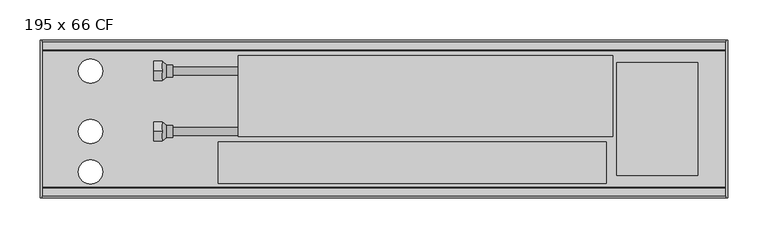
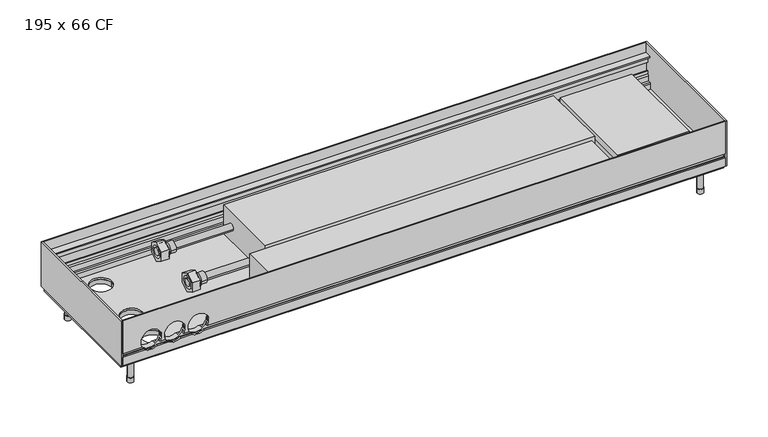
"""IFC4 building model written with IfcOpenShell, lengths in millimetres: proxy geometry, Mohlenhof_Внутрипольный конвектор_QSKM CF : 195 x 66 CF."""

from ifc_helpers import new_model, si_unit, point, frame, frame_2d, origin, place, context, project, spatial, polyline, circle_curve, ellipse_curve, trimmed, segment, composite_curve, outline, extrude, source, transform, mapped, element, save
from ifc_brep_helpers import plane_surface, cylinder_surface, revolved_surface, advanced_brep


def proxy_195_x_66_cf_20c1678a(model_context):
    return source(origin(), model_context, "Body", "SolidModel", [
        advanced_brep(
        [(-274.0, -213.0, -41.0), (-274.0, -201.0, -41.0), (-274.0, -225.0, -41.0), (-261.5, -220.5, -41.0), (-261.5, -205.5, -41.0), (-261.5, -213.0, -41.0), (-269.0, -220.5, -41.0), (-269.0, -205.5, -41.0)],
        [
            (0, 1),
            (1, 2, circle_curve(frame((-274.0, -213.0, -41.0), z_axis=(-1.0, 0.0, 0.0), x_axis=(0.0, 1.0, 0.0)), 12.0)),
            (2, 0),
            (2, 1, circle_curve(frame((-274.0, -213.0, -41.0), z_axis=(-1.0, 0.0, 0.0), x_axis=(0.0, 1.0, 0.0)), 12.0)),
            (3, 4, circle_curve(frame((-261.5, -213.0, -41.0), z_axis=(1.0, 0.0, 0.0), x_axis=(0.0, 1.0, 0.0)), 7.5)),
            (4, 5),
            (5, 3),
            (4, 3, circle_curve(frame((-261.5, -213.0, -41.0), z_axis=(1.0, 0.0, 0.0), x_axis=(0.0, 1.0, 0.0)), 7.5)),
            (6, 7, circle_curve(frame((-269.0, -213.0, -41.0), z_axis=(1.0, 0.0, 0.0), x_axis=(0.0, 1.0, 0.0)), 7.5)),
            (7, 4),
            (3, 6),
            (7, 6, circle_curve(frame((-269.0, -213.0, -41.0), z_axis=(1.0, 0.0, 0.0), x_axis=(0.0, 1.0, 0.0)), 7.5)),
            (1, 7),
            (6, 2),
        ],
        [
            plane_surface(frame((-274.0, -213.0, -41.0), z_axis=(-1.0, 0.0, 0.0), x_axis=(0.0, 1.0, 0.0))),
            plane_surface(frame((-261.5, -213.0, -41.0), z_axis=(1.0, 0.0, 0.0), x_axis=(0.0, 1.0, 0.0))),
            cylinder_surface(frame((-274.0, -213.0, -41.0), z_axis=(-1.0, 0.0, 0.0), x_axis=(0.0, 1.0, 0.0)), 7.5),
            revolved_surface(polyline([(-269.0, -205.5, -41.0), (-274.0, -201.0, -41.0)]), (-274.0, -213.0, -41.0), (-1.0, 0.0, 0.0)),
        ],
        [
            (0, [[1, 2, 3]]),
            (0, [[-3, 4, -1]]),
            (1, [[5, 6, 7]]),
            (1, [[8, -7, -6]]),
            (2, [[9, 10, -5, 11]]),
            (2, [[12, -11, -8, -10]]),
            (3, [[-2, 13, -9, 14]]),
            (3, [[-4, -14, -12, -13]]),
        ],
    ),
        extrude(outline(polyline([(-213.0, -27.1435935), (-201.0, -34.0717968), (-201.0, -47.9282032), (-213.0, -54.8564065), (-225.0, -47.9282032), (-225.0, -34.0717968), (-213.0, -27.1435935)]), holes=[composite_curve([segment(trimmed(circle_curve(frame_2d((-213.0, -41.0)), 8.5), [point((-204.5, -41.0))], [point((-221.5, -41.0))], True, "CARTESIAN"), True, "CONTINUOUS"), segment(trimmed(circle_curve(frame_2d((-213.0, -41.0)), 8.5), [point((-221.5, -41.0))], [point((-204.5, -41.0))], True, "CARTESIAN"), True, "CONTINUOUS")], self_intersect=False)]), frame((-285.0, 0.0, 0.0), z_axis=(1.0, 0.0, 0.0), x_axis=(0.0, 1.0, 0.0)), (0.0, 0.0, 1.0), 11.0),
        advanced_brep(
        [(-274.0, -138.0, -41.0), (-274.0, -126.0, -41.0), (-274.0, -150.0, -41.0), (-261.5, -145.5, -41.0), (-261.5, -130.5, -41.0), (-261.5, -138.0, -41.0), (-269.0, -145.5, -41.0), (-269.0, -130.5, -41.0)],
        [
            (0, 1),
            (1, 2, circle_curve(frame((-274.0, -138.0, -41.0), z_axis=(-1.0, 0.0, 0.0), x_axis=(0.0, 1.0, 0.0)), 12.0)),
            (2, 0),
            (2, 1, circle_curve(frame((-274.0, -138.0, -41.0), z_axis=(-1.0, 0.0, 0.0), x_axis=(0.0, 1.0, 0.0)), 12.0)),
            (3, 4, circle_curve(frame((-261.5, -138.0, -41.0), z_axis=(1.0, 0.0, 0.0), x_axis=(0.0, 1.0, 0.0)), 7.5)),
            (4, 5),
            (5, 3),
            (4, 3, circle_curve(frame((-261.5, -138.0, -41.0), z_axis=(1.0, 0.0, 0.0), x_axis=(0.0, 1.0, 0.0)), 7.5)),
            (6, 7, circle_curve(frame((-269.0, -138.0, -41.0), z_axis=(1.0, 0.0, 0.0), x_axis=(0.0, 1.0, 0.0)), 7.5)),
            (7, 4),
            (3, 6),
            (7, 6, circle_curve(frame((-269.0, -138.0, -41.0), z_axis=(1.0, 0.0, 0.0), x_axis=(0.0, 1.0, 0.0)), 7.5)),
            (1, 7),
            (6, 2),
        ],
        [
            plane_surface(frame((-274.0, -138.0, -41.0), z_axis=(-1.0, 0.0, 0.0), x_axis=(0.0, 1.0, 0.0))),
            plane_surface(frame((-261.5, -138.0, -41.0), z_axis=(1.0, 0.0, 0.0), x_axis=(0.0, 1.0, 0.0))),
            cylinder_surface(frame((-274.0, -138.0, -41.0), z_axis=(-1.0, 0.0, 0.0), x_axis=(0.0, 1.0, 0.0)), 7.5),
            revolved_surface(polyline([(-269.0, -130.5, -41.0), (-274.0, -126.0, -41.0)]), (-274.0, -138.0, -41.0), (-1.0, 0.0, 0.0)),
        ],
        [
            (0, [[1, 2, 3]]),
            (0, [[-3, 4, -1]]),
            (1, [[5, 6, 7]]),
            (1, [[8, -7, -6]]),
            (2, [[9, 10, -5, 11]]),
            (2, [[12, -11, -8, -10]]),
            (3, [[-2, 13, -9, 14]]),
            (3, [[-4, -14, -12, -13]]),
        ],
    ),
        extrude(outline(polyline([(-138.0, -27.1435935), (-126.0, -34.0717968), (-126.0, -47.9282032), (-138.0, -54.8564065), (-150.0, -47.9282032), (-150.0, -34.0717968), (-138.0, -27.1435935)]), holes=[composite_curve([segment(trimmed(circle_curve(frame_2d((-138.0, -41.0)), 8.5), [point((-129.5, -41.0))], [point((-146.5, -41.0))], True, "CARTESIAN"), True, "CONTINUOUS"), segment(trimmed(circle_curve(frame_2d((-138.0, -41.0)), 8.5), [point((-146.5, -41.0))], [point((-129.5, -41.0))], True, "CARTESIAN"), True, "CONTINUOUS")], self_intersect=False)]), frame((-285.0, 0.0, 0.0), z_axis=(1.0, 0.0, 0.0), x_axis=(0.0, 1.0, 0.0)), (0.0, 0.0, 1.0), 11.0),
        extrude(outline(composite_curve([segment(trimmed(circle_curve(frame_2d((-400.0, -273.5)), 4.5), [point((-404.5, -273.5))], [point((-395.5, -273.5))], False, "CARTESIAN"), True, "CONTINUOUS"), segment(trimmed(circle_curve(frame_2d((-400.0, -273.5)), 4.5), [point((-395.5, -273.5))], [point((-404.5, -273.5))], False, "CARTESIAN"), True, "CONTINUOUS")], self_intersect=False)), frame((0.0, 0.0, -110.0), z_axis=(0.0, 0.0, 1.0), x_axis=(1.0, 0.0, 0.0)), (0.0, 0.0, 1.0), 7.0),
        extrude(outline(composite_curve([segment(trimmed(circle_curve(frame_2d((-400.0, -273.5)), 4.0), [point((-404.0, -273.5))], [point((-396.0, -273.5))], False, "CARTESIAN"), True, "CONTINUOUS"), segment(trimmed(circle_curve(frame_2d((-400.0, -273.5)), 4.0), [point((-396.0, -273.5))], [point((-404.0, -273.5))], False, "CARTESIAN"), True, "CONTINUOUS")], self_intersect=False)), frame((0.0, 0.0, -103.0), z_axis=(0.0, 0.0, 1.0), x_axis=(1.0, 0.0, 0.0)), (0.0, 0.0, 1.0), 32.5),
        extrude(outline(composite_curve([segment(trimmed(circle_curve(frame_2d((-400.0, -121.5)), 4.5), [point((-404.5, -121.5))], [point((-395.5, -121.5))], False, "CARTESIAN"), True, "CONTINUOUS"), segment(trimmed(circle_curve(frame_2d((-400.0, -121.5)), 4.5), [point((-395.5, -121.5))], [point((-404.5, -121.5))], False, "CARTESIAN"), True, "CONTINUOUS")], self_intersect=False)), frame((0.0, 0.0, -110.0), z_axis=(0.0, 0.0, 1.0), x_axis=(1.0, 0.0, 0.0)), (0.0, 0.0, 1.0), 7.0),
        extrude(outline(composite_curve([segment(trimmed(circle_curve(frame_2d((-400.0, -121.5)), 4.0), [point((-404.0, -121.5))], [point((-396.0, -121.5))], False, "CARTESIAN"), True, "CONTINUOUS"), segment(trimmed(circle_curve(frame_2d((-400.0, -121.5)), 4.0), [point((-396.0, -121.5))], [point((-404.0, -121.5))], False, "CARTESIAN"), True, "CONTINUOUS")], self_intersect=False)), frame((0.0, 0.0, -103.0), z_axis=(0.0, 0.0, 1.0), x_axis=(1.0, 0.0, 0.0)), (0.0, 0.0, 1.0), 32.5),
        extrude(outline(composite_curve([segment(trimmed(circle_curve(frame_2d((400.0, -273.5)), 4.5), [point((395.5, -273.5))], [point((404.5, -273.5))], False, "CARTESIAN"), True, "CONTINUOUS"), segment(trimmed(circle_curve(frame_2d((400.0, -273.5)), 4.5), [point((404.5, -273.5))], [point((395.5, -273.5))], False, "CARTESIAN"), True, "CONTINUOUS")], self_intersect=False)), frame((0.0, 0.0, -110.0), z_axis=(0.0, 0.0, 1.0), x_axis=(1.0, 0.0, 0.0)), (0.0, 0.0, 1.0), 7.0),
        extrude(outline(composite_curve([segment(trimmed(circle_curve(frame_2d((400.0, -273.5)), 4.0), [point((396.0, -273.5))], [point((404.0, -273.5))], False, "CARTESIAN"), True, "CONTINUOUS"), segment(trimmed(circle_curve(frame_2d((400.0, -273.5)), 4.0), [point((404.0, -273.5))], [point((396.0, -273.5))], False, "CARTESIAN"), True, "CONTINUOUS")], self_intersect=False)), frame((0.0, 0.0, -103.0), z_axis=(0.0, 0.0, 1.0), x_axis=(1.0, 0.0, 0.0)), (0.0, 0.0, 1.0), 32.5),
        extrude(outline(composite_curve([segment(trimmed(circle_curve(frame_2d((400.0, -121.5)), 4.5), [point((395.5, -121.5))], [point((404.5, -121.5))], False, "CARTESIAN"), True, "CONTINUOUS"), segment(trimmed(circle_curve(frame_2d((400.0, -121.5)), 4.5), [point((404.5, -121.5))], [point((395.5, -121.5))], False, "CARTESIAN"), True, "CONTINUOUS")], self_intersect=False)), frame((0.0, 0.0, -110.0), z_axis=(0.0, 0.0, 1.0), x_axis=(1.0, 0.0, 0.0)), (0.0, 0.0, 1.0), 7.0),
        extrude(outline(composite_curve([segment(trimmed(circle_curve(frame_2d((400.0, -121.5)), 4.0), [point((396.0, -121.5))], [point((404.0, -121.5))], False, "CARTESIAN"), True, "CONTINUOUS"), segment(trimmed(circle_curve(frame_2d((400.0, -121.5)), 4.0), [point((404.0, -121.5))], [point((396.0, -121.5))], False, "CARTESIAN"), True, "CONTINUOUS")], self_intersect=False)), frame((0.0, 0.0, -103.0), z_axis=(0.0, 0.0, 1.0), x_axis=(1.0, 0.0, 0.0)), (0.0, 0.0, 1.0), 32.5),
        extrude(outline(polyline([(-62.5, 376.0), (-44.5, 376.0), (-44.5, 385.0), (-29.5, 385.0), (-29.5, 388.0), (-19.5, 388.0), (-19.5, 288.0), (-29.5, 288.0), (-29.5, 291.0), (-62.5, 291.0), (-62.5, 376.0)])), frame((0.0, -267.5, 0.0), z_axis=(0.0, 1.0, 0.0), x_axis=(0.0, 0.0, 1.0)), (0.0, 0.0, 1.0), 140.0),
        extrude(outline(polyline([(275.0, -225.87), (275.0, -277.18), (-205.0, -277.18), (-205.0, -225.87), (275.0, -225.87)])), frame((0.0, 0.0, -62.5), z_axis=(0.0, 0.0, 1.0), x_axis=(1.0, 0.0, 0.0)), (0.0, 0.0, 1.0), 43.62),
        extrude(outline(composite_curve([segment(trimmed(circle_curve(frame_2d((-213.0, -41.0)), 5.0), [point((-218.0, -41.0))], [point((-208.0, -41.0))], False, "CARTESIAN"), True, "CONTINUOUS"), segment(trimmed(circle_curve(frame_2d((-213.0, -41.0)), 5.0), [point((-208.0, -41.0))], [point((-218.0, -41.0))], False, "CARTESIAN"), True, "CONTINUOUS")], self_intersect=False)), frame((-285.0, 0.0, 0.0), z_axis=(1.0, 0.0, 0.0), x_axis=(0.0, 1.0, 0.0)), (0.0, 0.0, 1.0), 105.0),
        extrude(outline(composite_curve([segment(trimmed(circle_curve(frame_2d((-138.0, -41.0)), 5.0), [point((-143.0, -41.0))], [point((-133.0, -41.0))], False, "CARTESIAN"), True, "CONTINUOUS"), segment(trimmed(circle_curve(frame_2d((-138.0, -41.0)), 5.0), [point((-133.0, -41.0))], [point((-143.0, -41.0))], False, "CARTESIAN"), True, "CONTINUOUS")], self_intersect=False)), frame((-285.0, 0.0, 0.0), z_axis=(1.0, 0.0, 0.0), x_axis=(0.0, 1.0, 0.0)), (0.0, 0.0, 1.0), 105.0),
        advanced_brep(
        [(423.0, -295.0, -48.5473602), (423.0, -293.5, -49.2468216), (423.0, -292.5, -49.2468216), (423.0, -292.5, -46.0008038), (423.0, -290.0, -46.0008038), (423.0, -290.0, -56.5008038), (423.0, -292.5, -56.5008038), (423.0, -292.5, -53.2468216), (423.0, -293.5, -53.2468216), (423.0, -295.0, -53.9462831), (423.0, -295.0, -66.5), (423.0, -291.0, -66.5), (423.0, -291.0, -65.2), (423.0, -293.0, -65.2), (423.0, -293.0, -62.5), (423.0, -282.0, -62.5), (423.0, -282.0, -54.9172677), (423.0, -283.4172677, -53.5), (423.0, -287.0, -53.5), (423.0, -287.0, -45.91), (423.0, -289.0, -43.91), (423.0, -289.0, -39.5), (423.0, -290.0, -39.5), (423.0, -290.0, -43.5), (423.0, -292.4956439, -43.5), (423.0, -292.4956439, -23.0), (423.0, -290.0, -23.0), (423.0, -290.0, -27.0), (423.0, -289.0, -27.0), (423.0, -289.0, -17.0), (423.0, -283.3956439, -17.0), (423.0, -283.3956439, -15.0), (423.0, -293.4, -15.0), (423.0, -293.4, 0.0), (423.0, -295.0, 0.0), (-423.0, -295.0, -48.5473602), (-423.0, -295.0, 0.0), (-423.0, -293.4, 0.0), (-423.0, -293.4, -15.0), (-423.0, -283.3956439, -15.0), (-423.0, -283.3956439, -17.0), (-423.0, -289.0, -17.0), (-423.0, -289.0, -27.0), (-423.0, -290.0, -27.0), (-423.0, -290.0, -23.0), (-423.0, -292.4956439, -23.0), (-423.0, -292.4956439, -43.5), (-423.0, -290.0, -43.5), (-423.0, -290.0, -39.5), (-423.0, -289.0, -39.5), (-423.0, -289.0, -43.91), (-423.0, -287.0, -45.91), (-423.0, -287.0, -53.5), (-423.0, -283.4172677, -53.5), (-423.0, -282.0, -54.9172677), (-423.0, -282.0, -62.5), (-423.0, -293.0, -62.5), (-423.0, -293.0, -65.2), (-423.0, -291.0, -65.2), (-423.0, -291.0, -66.5), (-423.0, -295.0, -66.5), (-423.0, -295.0, -53.9462831), (-423.0, -293.5, -53.2468216), (-423.0, -292.5, -53.2468216), (-423.0, -292.5, -56.5008038), (-423.0, -290.0, -56.5008038), (-423.0, -290.0, -46.0008038), (-423.0, -292.5, -46.0008038), (-423.0, -292.5, -49.2468216), (-423.0, -293.5, -49.2468216), (-303.7585985, -295.0, -48.5473602), (-304.155283, -293.5, -49.2468216), (-395.844717, -293.5, -49.2468216), (-396.2414015, -295.0, -48.5473602), (-363.2414015, -295.0, -48.5473602), (-369.7585985, -295.0, -48.5473602), (-370.155283, -293.5, -49.2468216), (-362.844717, -293.5, -49.2468216), (-330.2414015, -295.0, -48.5473602), (-336.7585985, -295.0, -48.5473602), (-337.155283, -293.5, -49.2468216), (-329.844717, -293.5, -49.2468216), (-304.155283, -292.5, -49.2468216), (-395.844717, -292.5, -49.2468216), (-370.155283, -292.5, -49.2468216), (-362.844717, -292.5, -49.2468216), (-337.155283, -292.5, -49.2468216), (-329.844717, -292.5, -49.2468216), (-302.6911648, -292.5, -46.0008038), (-397.3088352, -292.5, -46.0008038), (-368.6911648, -292.5, -46.0008038), (-364.3088352, -292.5, -46.0008038), (-335.6911648, -292.5, -46.0008038), (-331.3088352, -292.5, -46.0008038), (-302.6911648, -290.0, -46.0008038), (-397.3088352, -290.0, -46.0008038), (-368.6911648, -290.0, -46.0008038), (-364.3088352, -290.0, -46.0008038), (-335.6911648, -290.0, -46.0008038), (-331.3088352, -290.0, -46.0008038), (-392.328032, -292.5, -53.2468216), (-373.671968, -292.5, -53.2468216), (-359.328032, -292.5, -53.2468216), (-340.671968, -292.5, -53.2468216), (-326.328032, -292.5, -53.2468216), (-307.671968, -292.5, -53.2468216), (-307.671968, -293.5, -53.2468216), (-392.328032, -293.5, -53.2468216), (-373.671968, -293.5, -53.2468216), (-359.328032, -293.5, -53.2468216), (-340.671968, -293.5, -53.2468216), (-326.328032, -293.5, -53.2468216), (-308.6280208, -295.0, -53.9462831), (-391.3719792, -295.0, -53.9462831), (-374.6280208, -295.0, -53.9462831), (-358.3719792, -295.0, -53.9462831), (-341.6280208, -295.0, -53.9462831), (-325.3719792, -295.0, -53.9462831), (-389.7064841, -282.0, -54.9172677), (-376.2935159, -282.0, -54.9172677), (-356.7064841, -282.0, -54.9172677), (-343.2935159, -282.0, -54.9172677), (-323.7064841, -282.0, -54.9172677), (-310.2935159, -282.0, -54.9172677), (-308.0, -283.4172677, -53.5), (-392.0, -283.4172677, -53.5), (-374.0, -283.4172677, -53.5), (-359.0, -283.4172677, -53.5), (-341.0, -283.4172677, -53.5), (-326.0, -283.4172677, -53.5), (-308.0, -287.0, -53.5), (-392.0, -287.0, -53.5), (-374.0, -287.0, -53.5), (-359.0, -287.0, -53.5), (-341.0, -287.0, -53.5), (-326.0, -287.0, -53.5), (-302.6629187, -287.0, -45.91), (-397.3370813, -287.0, -45.91), (-368.6629187, -287.0, -45.91), (-364.3370813, -287.0, -45.91), (-335.6629187, -287.0, -45.91), (-331.3370813, -287.0, -45.91), (-302.1948691, -289.0, -43.91), (-397.8051309, -289.0, -43.91), (-368.1948691, -289.0, -43.91), (-364.8051309, -289.0, -43.91), (-335.1948691, -289.0, -43.91), (-331.8051309, -289.0, -43.91), (-302.0, -289.0, -41.5), (-302.1339313, -289.0, -39.5), (-397.8660687, -289.0, -39.5), (-398.0, -289.0, -41.5), (-368.0, -289.0, -41.5), (-368.1339313, -289.0, -39.5), (-364.8660687, -289.0, -39.5), (-365.0, -289.0, -41.5), (-335.0, -289.0, -41.5), (-335.1339313, -289.0, -39.5), (-331.8660687, -289.0, -39.5), (-332.0, -289.0, -41.5), (-302.1339313, -290.0, -39.5), (-397.8660687, -290.0, -39.5), (-368.1339313, -290.0, -39.5), (-364.8660687, -290.0, -39.5), (-335.1339313, -290.0, -39.5), (-331.8660687, -290.0, -39.5), (-302.0, -290.0, -41.5), (-302.1339313, -290.0, -43.5), (-397.8660687, -290.0, -43.5), (-398.0, -290.0, -41.5), (-368.0, -290.0, -41.5), (-368.1339313, -290.0, -43.5), (-364.8660687, -290.0, -43.5), (-365.0, -290.0, -41.5), (-335.0, -290.0, -41.5), (-335.1339313, -290.0, -43.5), (-331.8660687, -290.0, -43.5), (-332.0, -290.0, -41.5), (-302.1339313, -292.4956439, -43.5), (-397.8660687, -292.4956439, -43.5), (-368.1339313, -292.4956439, -43.5), (-364.8660687, -292.4956439, -43.5), (-335.1339313, -292.4956439, -43.5), (-331.8660687, -292.4956439, -43.5), (-302.0, -292.4956439, -41.5), (-332.0, -292.4956439, -41.5), (-335.0, -292.4956439, -41.5), (-365.0, -292.4956439, -41.5), (-368.0, -292.4956439, -41.5), (-398.0, -292.4956439, -41.5), (-386.8405729, -290.0, -27.0), (-379.1594271, -290.0, -27.0), (-353.8405729, -290.0, -27.0), (-346.1594271, -290.0, -27.0), (-320.8405729, -290.0, -27.0), (-313.1594271, -290.0, -27.0), (-313.1594271, -289.0, -27.0), (-386.8405729, -289.0, -27.0), (-379.1594271, -289.0, -27.0), (-353.8405729, -289.0, -27.0), (-346.1594271, -289.0, -27.0), (-320.8405729, -289.0, -27.0), (-398.0, -295.0, -41.5), (-368.0, -295.0, -41.5), (-365.0, -295.0, -41.5), (-335.0, -295.0, -41.5), (-332.0, -295.0, -41.5), (-302.0, -295.0, -41.5)],
        [
            (0, 1),
            (1, 2),
            (2, 3),
            (3, 4),
            (4, 5),
            (5, 6),
            (6, 7),
            (7, 8),
            (8, 9),
            (9, 10),
            (10, 11),
            (11, 12),
            (12, 13),
            (13, 14),
            (14, 15),
            (15, 16),
            (16, 17),
            (17, 18),
            (18, 19),
            (19, 20),
            (20, 21),
            (21, 22),
            (22, 23),
            (23, 24),
            (24, 25),
            (25, 26),
            (26, 27),
            (27, 28),
            (28, 29),
            (29, 30),
            (30, 31),
            (31, 32),
            (32, 33),
            (33, 34),
            (34, 0),
            (35, 36),
            (36, 37),
            (37, 38),
            (38, 39),
            (39, 40),
            (40, 41),
            (41, 42),
            (42, 43),
            (43, 44),
            (44, 45),
            (45, 46),
            (46, 47),
            (47, 48),
            (48, 49),
            (49, 50),
            (50, 51),
            (51, 52),
            (52, 53),
            (53, 54),
            (54, 55),
            (55, 56),
            (56, 57),
            (57, 58),
            (58, 59),
            (59, 60),
            (60, 61),
            (61, 62),
            (62, 63),
            (63, 64),
            (64, 65),
            (65, 66),
            (66, 67),
            (67, 68),
            (68, 69),
            (69, 35),
            (0, 70),
            (70, 71, ellipse_curve(frame((-317.0, -310.1131126, -41.5), z_axis=(0.0, 0.42261826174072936, 0.9063077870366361), x_axis=(0.0, -0.906307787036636, 0.4226182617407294)), 35.4930237, 15.0)),
            (71, 1),
            (69, 72),
            (72, 73, ellipse_curve(frame((-383.0, -310.1131126, -41.5), z_axis=(0.0, 0.42261826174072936, 0.9063077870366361), x_axis=(0.0, -0.906307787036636, 0.4226182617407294)), 35.4930237, 15.0)),
            (73, 35),
            (74, 75),
            (75, 76, ellipse_curve(frame((-383.0, -310.1131126, -41.5), z_axis=(0.0, 0.42261826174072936, 0.9063077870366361), x_axis=(0.0, -0.906307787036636, 0.4226182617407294)), 35.4930237, 15.0)),
            (76, 77),
            (77, 74, ellipse_curve(frame((-350.0, -310.1131126, -41.5), z_axis=(0.0, 0.42261826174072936, 0.9063077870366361), x_axis=(0.0, -0.906307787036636, 0.4226182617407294)), 35.4930237, 15.0)),
            (78, 79),
            (79, 80, ellipse_curve(frame((-350.0, -310.1131126, -41.5), z_axis=(0.0, 0.42261826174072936, 0.9063077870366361), x_axis=(0.0, -0.906307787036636, 0.4226182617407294)), 35.4930237, 15.0)),
            (80, 81),
            (81, 78, ellipse_curve(frame((-317.0, -310.1131126, -41.5), z_axis=(0.0, 0.42261826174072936, 0.9063077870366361), x_axis=(0.0, -0.906307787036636, 0.4226182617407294)), 35.4930237, 15.0)),
            (71, 82),
            (82, 2),
            (68, 83),
            (83, 72),
            (76, 84),
            (84, 85),
            (85, 77),
            (80, 86),
            (86, 87),
            (87, 81),
            (82, 88, circle_curve(frame((-317.0, -292.5, -41.5), z_axis=(0.0, -1.0, 0.0), x_axis=(1.0, 0.0, 0.0)), 15.0)),
            (88, 3),
            (67, 89),
            (89, 83, circle_curve(frame((-383.0, -292.5, -41.5), z_axis=(0.0, -1.0, 0.0), x_axis=(1.0, 0.0, 0.0)), 15.0)),
            (84, 90, circle_curve(frame((-383.0, -292.5, -41.5), z_axis=(0.0, -1.0, 0.0), x_axis=(1.0, 0.0, 0.0)), 15.0)),
            (90, 91),
            (91, 85, circle_curve(frame((-350.0, -292.5, -41.5), z_axis=(0.0, -1.0, 0.0), x_axis=(1.0, 0.0, 0.0)), 15.0)),
            (86, 92, circle_curve(frame((-350.0, -292.5, -41.5), z_axis=(0.0, -1.0, 0.0), x_axis=(1.0, 0.0, 0.0)), 15.0)),
            (92, 93),
            (93, 87, circle_curve(frame((-317.0, -292.5, -41.5), z_axis=(0.0, -1.0, 0.0), x_axis=(1.0, 0.0, 0.0)), 15.0)),
            (88, 94),
            (94, 4),
            (66, 95),
            (95, 89),
            (90, 96),
            (96, 97),
            (97, 91),
            (92, 98),
            (98, 99),
            (99, 93),
            (94, 99, circle_curve(frame((-317.0, -290.0, -41.5), z_axis=(0.0, 1.0, 0.0), x_axis=(1.0, 0.0, 0.0)), 15.0)),
            (98, 97, circle_curve(frame((-350.0, -290.0, -41.5), z_axis=(0.0, 1.0, 0.0), x_axis=(1.0, 0.0, 0.0)), 15.0)),
            (96, 95, circle_curve(frame((-383.0, -290.0, -41.5), z_axis=(0.0, 1.0, 0.0), x_axis=(1.0, 0.0, 0.0)), 15.0)),
            (65, 5),
            (64, 6),
            (63, 100),
            (100, 101, circle_curve(frame((-383.0, -292.5, -41.5), z_axis=(0.0, -1.0, 0.0), x_axis=(1.0, 0.0, 0.0)), 15.0)),
            (101, 102),
            (102, 103, circle_curve(frame((-350.0, -292.5, -41.5), z_axis=(0.0, -1.0, 0.0), x_axis=(1.0, 0.0, 0.0)), 15.0)),
            (103, 104),
            (104, 105, circle_curve(frame((-317.0, -292.5, -41.5), z_axis=(0.0, -1.0, 0.0), x_axis=(1.0, 0.0, 0.0)), 15.0)),
            (105, 7),
            (105, 106),
            (106, 8),
            (62, 107),
            (107, 100),
            (101, 108),
            (108, 109),
            (109, 102),
            (103, 110),
            (110, 111),
            (111, 104),
            (106, 112, ellipse_curve(frame((-317.0, -268.3088597, -41.5), z_axis=(0.0, 0.4226182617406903, -0.9063077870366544), x_axis=(0.0, -0.9063077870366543, -0.42261826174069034)), 35.4930237, 15.0)),
            (112, 9),
            (61, 113),
            (113, 107, ellipse_curve(frame((-383.0, -268.3088597, -41.5), z_axis=(0.0, 0.4226182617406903, -0.9063077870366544), x_axis=(0.0, -0.9063077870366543, -0.42261826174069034)), 35.4930237, 15.0)),
            (108, 114, ellipse_curve(frame((-383.0, -268.3088597, -41.5), z_axis=(0.0, 0.4226182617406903, -0.9063077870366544), x_axis=(0.0, -0.9063077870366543, -0.42261826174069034)), 35.4930237, 15.0)),
            (114, 115),
            (115, 109, ellipse_curve(frame((-350.0, -268.3088597, -41.5), z_axis=(0.0, 0.4226182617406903, -0.9063077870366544), x_axis=(0.0, -0.9063077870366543, -0.42261826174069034)), 35.4930237, 15.0)),
            (110, 116, ellipse_curve(frame((-350.0, -268.3088597, -41.5), z_axis=(0.0, 0.4226182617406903, -0.9063077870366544), x_axis=(0.0, -0.9063077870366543, -0.42261826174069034)), 35.4930237, 15.0)),
            (116, 117),
            (117, 111, ellipse_curve(frame((-317.0, -268.3088597, -41.5), z_axis=(0.0, 0.4226182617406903, -0.9063077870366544), x_axis=(0.0, -0.9063077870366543, -0.42261826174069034)), 35.4930237, 15.0)),
            (112, 117, circle_curve(frame((-317.0, -295.0, -41.5), z_axis=(0.0, 1.0, 0.0), x_axis=(1.0, 0.0, 0.0)), 15.0)),
            (116, 115, circle_curve(frame((-350.0, -295.0, -41.5), z_axis=(0.0, 1.0, 0.0), x_axis=(1.0, 0.0, 0.0)), 15.0)),
            (114, 113, circle_curve(frame((-383.0, -295.0, -41.5), z_axis=(0.0, 1.0, 0.0), x_axis=(1.0, 0.0, 0.0)), 15.0)),
            (60, 10),
            (59, 11),
            (58, 12),
            (57, 13),
            (56, 14),
            (55, 15),
            (54, 118),
            (118, 119, circle_curve(frame((-383.0, -282.0, -41.5), z_axis=(0.0, -1.0, 0.0), x_axis=(1.0, 0.0, 0.0)), 15.0)),
            (119, 120),
            (120, 121, circle_curve(frame((-350.0, -282.0, -41.5), z_axis=(0.0, -1.0, 0.0), x_axis=(1.0, 0.0, 0.0)), 15.0)),
            (121, 122),
            (122, 123, circle_curve(frame((-317.0, -282.0, -41.5), z_axis=(0.0, -1.0, 0.0), x_axis=(1.0, 0.0, 0.0)), 15.0)),
            (123, 16),
            (123, 124, ellipse_curve(frame((-317.0, -295.4172677, -41.5), z_axis=(0.0, -0.7071067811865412, -0.7071067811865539), x_axis=(0.0, -0.7071067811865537, 0.7071067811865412)), 21.2132034, 15.0)),
            (124, 17),
            (53, 125),
            (125, 118, ellipse_curve(frame((-383.0, -295.4172677, -41.5), z_axis=(0.0, -0.7071067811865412, -0.7071067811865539), x_axis=(0.0, -0.7071067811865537, 0.7071067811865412)), 21.2132034, 15.0)),
            (119, 126, ellipse_curve(frame((-383.0, -295.4172677, -41.5), z_axis=(0.0, -0.7071067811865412, -0.7071067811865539), x_axis=(0.0, -0.7071067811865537, 0.7071067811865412)), 21.2132034, 15.0)),
            (126, 127),
            (127, 120, ellipse_curve(frame((-350.0, -295.4172677, -41.5), z_axis=(0.0, -0.7071067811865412, -0.7071067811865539), x_axis=(0.0, -0.7071067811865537, 0.7071067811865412)), 21.2132034, 15.0)),
            (121, 128, ellipse_curve(frame((-350.0, -295.4172677, -41.5), z_axis=(0.0, -0.7071067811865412, -0.7071067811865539), x_axis=(0.0, -0.7071067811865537, 0.7071067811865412)), 21.2132034, 15.0)),
            (128, 129),
            (129, 122, ellipse_curve(frame((-317.0, -295.4172677, -41.5), z_axis=(0.0, -0.7071067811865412, -0.7071067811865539), x_axis=(0.0, -0.7071067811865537, 0.7071067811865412)), 21.2132034, 15.0)),
            (124, 130),
            (130, 18),
            (52, 131),
            (131, 125),
            (126, 132),
            (132, 133),
            (133, 127),
            (128, 134),
            (134, 135),
            (135, 129),
            (130, 136, circle_curve(frame((-317.0, -287.0, -41.5), z_axis=(0.0, -1.0, 0.0), x_axis=(1.0, 0.0, 0.0)), 15.0)),
            (136, 19),
            (51, 137),
            (137, 131, circle_curve(frame((-383.0, -287.0, -41.5), z_axis=(0.0, -1.0, 0.0), x_axis=(1.0, 0.0, 0.0)), 15.0)),
            (132, 138, circle_curve(frame((-383.0, -287.0, -41.5), z_axis=(0.0, -1.0, 0.0), x_axis=(1.0, 0.0, 0.0)), 15.0)),
            (138, 139),
            (139, 133, circle_curve(frame((-350.0, -287.0, -41.5), z_axis=(0.0, -1.0, 0.0), x_axis=(1.0, 0.0, 0.0)), 15.0)),
            (134, 140, circle_curve(frame((-350.0, -287.0, -41.5), z_axis=(0.0, -1.0, 0.0), x_axis=(1.0, 0.0, 0.0)), 15.0)),
            (140, 141),
            (141, 135, circle_curve(frame((-317.0, -287.0, -41.5), z_axis=(0.0, -1.0, 0.0), x_axis=(1.0, 0.0, 0.0)), 15.0)),
            (136, 142, ellipse_curve(frame((-317.0, -291.41, -41.5), z_axis=(0.0, -0.7071067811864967, -0.7071067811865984), x_axis=(0.0, -0.7071067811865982, 0.7071067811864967)), 21.2132034, 15.0)),
            (142, 20),
            (50, 143),
            (143, 137, ellipse_curve(frame((-383.0, -291.41, -41.5), z_axis=(0.0, -0.7071067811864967, -0.7071067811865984), x_axis=(0.0, -0.7071067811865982, 0.7071067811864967)), 21.2132034, 15.0)),
            (138, 144, ellipse_curve(frame((-383.0, -291.41, -41.5), z_axis=(0.0, -0.7071067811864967, -0.7071067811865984), x_axis=(0.0, -0.7071067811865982, 0.7071067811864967)), 21.2132034, 15.0)),
            (144, 145),
            (145, 139, ellipse_curve(frame((-350.0, -291.41, -41.5), z_axis=(0.0, -0.7071067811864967, -0.7071067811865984), x_axis=(0.0, -0.7071067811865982, 0.7071067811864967)), 21.2132034, 15.0)),
            (140, 146, ellipse_curve(frame((-350.0, -291.41, -41.5), z_axis=(0.0, -0.7071067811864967, -0.7071067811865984), x_axis=(0.0, -0.7071067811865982, 0.7071067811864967)), 21.2132034, 15.0)),
            (146, 147),
            (147, 141, ellipse_curve(frame((-317.0, -291.41, -41.5), z_axis=(0.0, -0.7071067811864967, -0.7071067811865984), x_axis=(0.0, -0.7071067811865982, 0.7071067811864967)), 21.2132034, 15.0)),
            (142, 148, circle_curve(frame((-317.0, -289.0, -41.5), z_axis=(0.0, -1.0, 0.0), x_axis=(1.0, 0.0, 0.0)), 15.0)),
            (148, 149, circle_curve(frame((-317.0, -289.0, -41.5), z_axis=(0.0, -1.0, 0.0), x_axis=(1.0, 0.0, 0.0)), 15.0)),
            (149, 21),
            (49, 150),
            (150, 151, circle_curve(frame((-383.0, -289.0, -41.5), z_axis=(0.0, -1.0, 0.0), x_axis=(1.0, 0.0, 0.0)), 15.0)),
            (151, 143, circle_curve(frame((-383.0, -289.0, -41.5), z_axis=(0.0, -1.0, 0.0), x_axis=(1.0, 0.0, 0.0)), 15.0)),
            (144, 152, circle_curve(frame((-383.0, -289.0, -41.5), z_axis=(0.0, -1.0, 0.0), x_axis=(1.0, 0.0, 0.0)), 15.0)),
            (152, 153, circle_curve(frame((-383.0, -289.0, -41.5), z_axis=(0.0, -1.0, 0.0), x_axis=(1.0, 0.0, 0.0)), 15.0)),
            (153, 154),
            (154, 155, circle_curve(frame((-350.0, -289.0, -41.5), z_axis=(0.0, -1.0, 0.0), x_axis=(1.0, 0.0, 0.0)), 15.0)),
            (155, 145, circle_curve(frame((-350.0, -289.0, -41.5), z_axis=(0.0, -1.0, 0.0), x_axis=(1.0, 0.0, 0.0)), 15.0)),
            (146, 156, circle_curve(frame((-350.0, -289.0, -41.5), z_axis=(0.0, -1.0, 0.0), x_axis=(1.0, 0.0, 0.0)), 15.0)),
            (156, 157, circle_curve(frame((-350.0, -289.0, -41.5), z_axis=(0.0, -1.0, 0.0), x_axis=(1.0, 0.0, 0.0)), 15.0)),
            (157, 158),
            (158, 159, circle_curve(frame((-317.0, -289.0, -41.5), z_axis=(0.0, -1.0, 0.0), x_axis=(1.0, 0.0, 0.0)), 15.0)),
            (159, 147, circle_curve(frame((-317.0, -289.0, -41.5), z_axis=(0.0, -1.0, 0.0), x_axis=(1.0, 0.0, 0.0)), 15.0)),
            (149, 160),
            (160, 22),
            (48, 161),
            (161, 150),
            (153, 162),
            (162, 163),
            (163, 154),
            (157, 164),
            (164, 165),
            (165, 158),
            (160, 166, circle_curve(frame((-317.0, -290.0, -41.5), z_axis=(0.0, 1.0, 0.0), x_axis=(1.0, 0.0, 0.0)), 15.0)),
            (166, 167, circle_curve(frame((-317.0, -290.0, -41.5), z_axis=(0.0, 1.0, 0.0), x_axis=(1.0, 0.0, 0.0)), 15.0)),
            (167, 23),
            (47, 168),
            (168, 169, circle_curve(frame((-383.0, -290.0, -41.5), z_axis=(0.0, 1.0, 0.0), x_axis=(1.0, 0.0, 0.0)), 15.0)),
            (169, 161, circle_curve(frame((-383.0, -290.0, -41.5), z_axis=(0.0, 1.0, 0.0), x_axis=(1.0, 0.0, 0.0)), 15.0)),
            (162, 170, circle_curve(frame((-383.0, -290.0, -41.5), z_axis=(0.0, 1.0, 0.0), x_axis=(1.0, 0.0, 0.0)), 15.0)),
            (170, 171, circle_curve(frame((-383.0, -290.0, -41.5), z_axis=(0.0, 1.0, 0.0), x_axis=(1.0, 0.0, 0.0)), 15.0)),
            (171, 172),
            (172, 173, circle_curve(frame((-350.0, -290.0, -41.5), z_axis=(0.0, 1.0, 0.0), x_axis=(1.0, 0.0, 0.0)), 15.0)),
            (173, 163, circle_curve(frame((-350.0, -290.0, -41.5), z_axis=(0.0, 1.0, 0.0), x_axis=(1.0, 0.0, 0.0)), 15.0)),
            (164, 174, circle_curve(frame((-350.0, -290.0, -41.5), z_axis=(0.0, 1.0, 0.0), x_axis=(1.0, 0.0, 0.0)), 15.0)),
            (174, 175, circle_curve(frame((-350.0, -290.0, -41.5), z_axis=(0.0, 1.0, 0.0), x_axis=(1.0, 0.0, 0.0)), 15.0)),
            (175, 176),
            (176, 177, circle_curve(frame((-317.0, -290.0, -41.5), z_axis=(0.0, 1.0, 0.0), x_axis=(1.0, 0.0, 0.0)), 15.0)),
            (177, 165, circle_curve(frame((-317.0, -290.0, -41.5), z_axis=(0.0, 1.0, 0.0), x_axis=(1.0, 0.0, 0.0)), 15.0)),
            (167, 178),
            (178, 24),
            (46, 179),
            (179, 168),
            (171, 180),
            (180, 181),
            (181, 172),
            (175, 182),
            (182, 183),
            (183, 176),
            (178, 184, circle_curve(frame((-317.0, -292.4956439, -41.5), z_axis=(0.0, -1.0, 0.0), x_axis=(1.0, 0.0, 0.0)), 15.0)),
            (184, 185, circle_curve(frame((-317.0, -292.4956439, -41.5), z_axis=(0.0, -1.0, 0.0), x_axis=(1.0, 0.0, 0.0)), 15.0)),
            (185, 183, circle_curve(frame((-317.0, -292.4956439, -41.5), z_axis=(0.0, -1.0, 0.0), x_axis=(1.0, 0.0, 0.0)), 15.0)),
            (182, 186, circle_curve(frame((-350.0, -292.4956439, -41.5), z_axis=(0.0, -1.0, 0.0), x_axis=(1.0, 0.0, 0.0)), 15.0)),
            (186, 187, circle_curve(frame((-350.0, -292.4956439, -41.5), z_axis=(0.0, -1.0, 0.0), x_axis=(1.0, 0.0, 0.0)), 15.0)),
            (187, 181, circle_curve(frame((-350.0, -292.4956439, -41.5), z_axis=(0.0, -1.0, 0.0), x_axis=(1.0, 0.0, 0.0)), 15.0)),
            (180, 188, circle_curve(frame((-383.0, -292.4956439, -41.5), z_axis=(0.0, -1.0, 0.0), x_axis=(1.0, 0.0, 0.0)), 15.0)),
            (188, 189, circle_curve(frame((-383.0, -292.4956439, -41.5), z_axis=(0.0, -1.0, 0.0), x_axis=(1.0, 0.0, 0.0)), 15.0)),
            (189, 179, circle_curve(frame((-383.0, -292.4956439, -41.5), z_axis=(0.0, -1.0, 0.0), x_axis=(1.0, 0.0, 0.0)), 15.0)),
            (45, 25),
            (44, 26),
            (43, 190),
            (190, 191, circle_curve(frame((-383.0, -290.0, -41.5), z_axis=(0.0, 1.0, 0.0), x_axis=(1.0, 0.0, 0.0)), 15.0)),
            (191, 192),
            (192, 193, circle_curve(frame((-350.0, -290.0, -41.5), z_axis=(0.0, 1.0, 0.0), x_axis=(1.0, 0.0, 0.0)), 15.0)),
            (193, 194),
            (194, 195, circle_curve(frame((-317.0, -290.0, -41.5), z_axis=(0.0, 1.0, 0.0), x_axis=(1.0, 0.0, 0.0)), 15.0)),
            (195, 27),
            (195, 196),
            (196, 28),
            (42, 197),
            (197, 190),
            (191, 198),
            (198, 199),
            (199, 192),
            (193, 200),
            (200, 201),
            (201, 194),
            (196, 201, circle_curve(frame((-317.0, -289.0, -41.5), z_axis=(0.0, -1.0, 0.0), x_axis=(1.0, 0.0, 0.0)), 15.0)),
            (200, 199, circle_curve(frame((-350.0, -289.0, -41.5), z_axis=(0.0, -1.0, 0.0), x_axis=(1.0, 0.0, 0.0)), 15.0)),
            (198, 197, circle_curve(frame((-383.0, -289.0, -41.5), z_axis=(0.0, -1.0, 0.0), x_axis=(1.0, 0.0, 0.0)), 15.0)),
            (41, 29),
            (40, 30),
            (39, 31),
            (38, 32),
            (37, 33),
            (36, 34),
            (73, 202, circle_curve(frame((-383.0, -295.0, -41.5), z_axis=(0.0, 1.0, 0.0), x_axis=(1.0, 0.0, 0.0)), 15.0)),
            (202, 203, circle_curve(frame((-383.0, -295.0, -41.5), z_axis=(0.0, 1.0, 0.0), x_axis=(1.0, 0.0, 0.0)), 15.0)),
            (203, 75, circle_curve(frame((-383.0, -295.0, -41.5), z_axis=(0.0, 1.0, 0.0), x_axis=(1.0, 0.0, 0.0)), 15.0)),
            (74, 204, circle_curve(frame((-350.0, -295.0, -41.5), z_axis=(0.0, 1.0, 0.0), x_axis=(1.0, 0.0, 0.0)), 15.0)),
            (204, 205, circle_curve(frame((-350.0, -295.0, -41.5), z_axis=(0.0, 1.0, 0.0), x_axis=(1.0, 0.0, 0.0)), 15.0)),
            (205, 79, circle_curve(frame((-350.0, -295.0, -41.5), z_axis=(0.0, 1.0, 0.0), x_axis=(1.0, 0.0, 0.0)), 15.0)),
            (78, 206, circle_curve(frame((-317.0, -295.0, -41.5), z_axis=(0.0, 1.0, 0.0), x_axis=(1.0, 0.0, 0.0)), 15.0)),
            (206, 207, circle_curve(frame((-317.0, -295.0, -41.5), z_axis=(0.0, 1.0, 0.0), x_axis=(1.0, 0.0, 0.0)), 15.0)),
            (207, 70, circle_curve(frame((-317.0, -295.0, -41.5), z_axis=(0.0, 1.0, 0.0), x_axis=(1.0, 0.0, 0.0)), 15.0)),
            (151, 169),
            (189, 202),
            (203, 188),
            (170, 152),
            (155, 173),
            (187, 204),
            (205, 186),
            (174, 156),
            (159, 177),
            (185, 206),
            (207, 184),
            (166, 148),
        ],
        [
            plane_surface(frame((423.0, -293.0, -62.5), z_axis=(1.0, 0.0, 0.0), x_axis=(0.0, 0.0, 1.0))),
            plane_surface(frame((-423.0, -293.0, -62.5), z_axis=(-1.0, 0.0, 0.0), x_axis=(0.0, 0.0, 1.0))),
            plane_surface(frame((423.0, -295.0, -48.5473602), z_axis=(0.0, -0.42261826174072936, -0.9063077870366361), x_axis=(-1.0, 0.0, 0.0))),
            plane_surface(frame((423.0, -293.5, -49.2468216), z_axis=(0.0, 0.0, -1.0), x_axis=(-1.0, 0.0, 0.0))),
            plane_surface(frame((423.0, -292.5, -49.2468216), z_axis=(0.0, 1.0, 0.0), x_axis=(-1.0, 0.0, 0.0))),
            plane_surface(frame((423.0, -292.5, -46.0008038), z_axis=(0.0, 0.0, -1.0), x_axis=(-1.0, 0.0, 0.0))),
            plane_surface(frame((423.0, -290.0, -46.0008038), z_axis=(0.0, -1.0, 0.0), x_axis=(-1.0, 0.0, 0.0))),
            plane_surface(frame((423.0, -290.0, -56.5008038), z_axis=(0.0, 0.0, 1.0), x_axis=(-1.0, 0.0, 0.0))),
            plane_surface(frame((423.0, -292.5, -56.5008038), z_axis=(0.0, 1.0, 0.0), x_axis=(-1.0, 0.0, 0.0))),
            plane_surface(frame((423.0, -292.5, -53.2468216), z_axis=(0.0, 0.0, 1.0), x_axis=(-1.0, 0.0, 0.0))),
            plane_surface(frame((423.0, -293.5, -53.2468216), z_axis=(0.0, -0.4226182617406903, 0.9063077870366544), x_axis=(-1.0, 0.0, 0.0))),
            plane_surface(frame((423.0, -295.0, -53.9462831), z_axis=(0.0, -1.0, 0.0), x_axis=(-1.0, 0.0, 0.0))),
            plane_surface(frame((423.0, -295.0, -66.5), z_axis=(0.0, 0.0, -1.0), x_axis=(-1.0, 0.0, 0.0))),
            plane_surface(frame((423.0, -291.0, -66.5), z_axis=(0.0, 1.0, 0.0), x_axis=(-1.0, 0.0, 0.0))),
            plane_surface(frame((423.0, -291.0, -65.2), z_axis=(0.0, 0.0, 1.0), x_axis=(-1.0, 0.0, 0.0))),
            plane_surface(frame((423.0, -293.0, -65.2), z_axis=(0.0, 1.0, 0.0), x_axis=(-1.0, 0.0, 0.0))),
            plane_surface(frame((423.0, -293.0, -62.5), z_axis=(0.0, 0.0, -1.0), x_axis=(-1.0, 0.0, 0.0))),
            plane_surface(frame((423.0, -282.0, -62.5), z_axis=(0.0, 1.0, 0.0), x_axis=(-1.0, 0.0, 0.0))),
            plane_surface(frame((423.0, -282.0, -54.9172677), z_axis=(0.0, 0.7071067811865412, 0.7071067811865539), x_axis=(-1.0, 0.0, 0.0))),
            plane_surface(frame((423.0, -283.4172677, -53.5), z_axis=(0.0, 0.0, 1.0), x_axis=(-1.0, 0.0, 0.0))),
            plane_surface(frame((423.0, -287.0, -53.5), z_axis=(0.0, 1.0, 0.0), x_axis=(-1.0, 0.0, 0.0))),
            plane_surface(frame((423.0, -287.0, -45.91), z_axis=(0.0, 0.7071067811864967, 0.7071067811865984), x_axis=(-1.0, 0.0, 0.0))),
            plane_surface(frame((423.0, -289.0, -43.91), z_axis=(0.0, 1.0, 0.0), x_axis=(-1.0, 0.0, 0.0))),
            plane_surface(frame((423.0, -289.0, -39.5), z_axis=(0.0, 0.0, 1.0), x_axis=(-1.0, 0.0, 0.0))),
            plane_surface(frame((423.0, -290.0, -39.5), z_axis=(0.0, -1.0, 0.0), x_axis=(-1.0, 0.0, 0.0))),
            plane_surface(frame((423.0, -290.0, -43.5), z_axis=(0.0, 0.0, 1.0), x_axis=(-1.0, 0.0, 0.0))),
            plane_surface(frame((423.0, -292.4956439, -43.5), z_axis=(0.0, 1.0, 0.0), x_axis=(-1.0, 0.0, 0.0))),
            plane_surface(frame((423.0, -292.4956439, -23.0), z_axis=(0.0, 0.0, -1.0), x_axis=(-1.0, 0.0, 0.0))),
            plane_surface(frame((423.0, -290.0, -23.0), z_axis=(0.0, -1.0, 0.0), x_axis=(-1.0, 0.0, 0.0))),
            plane_surface(frame((423.0, -290.0, -27.0), z_axis=(0.0, 0.0, -1.0), x_axis=(-1.0, 0.0, 0.0))),
            plane_surface(frame((423.0, -289.0, -27.0), z_axis=(0.0, 1.0, 0.0), x_axis=(-1.0, 0.0, 0.0))),
            plane_surface(frame((423.0, -289.0, -17.0), z_axis=(0.0, 0.0, -1.0), x_axis=(-1.0, 0.0, 0.0))),
            plane_surface(frame((423.0, -283.3956439, -17.0), z_axis=(0.0, 1.0, 0.0), x_axis=(-1.0, 0.0, 0.0))),
            plane_surface(frame((423.0, -283.3956439, -15.0), z_axis=(0.0, 0.0, 1.0), x_axis=(-1.0, 0.0, 0.0))),
            plane_surface(frame((423.0, -293.4, -15.0), z_axis=(0.0, 1.0, 0.0), x_axis=(-1.0, 0.0, 0.0))),
            plane_surface(frame((423.0, -293.4, 0.0), z_axis=(0.0, 0.0, 1.0), x_axis=(-1.0, 0.0, 0.0))),
            plane_surface(frame((423.0, -295.0, 0.0), z_axis=(0.0, -1.0, 0.0), x_axis=(-1.0, 0.0, 0.0))),
            revolved_surface(polyline([(-368.0, -300.47646346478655, -41.5), (-368.0, -236.1412559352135, -41.5)]), (-383.0, -263.0, -41.5), (0.0, -1.0, 0.0)),
            revolved_surface(polyline([(-368.0, -342.2807163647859, -41.5), (-368.0, -276.41000002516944, -41.5)]), (-383.0, -263.0, -41.5), (0.0, -1.0, 0.0)),
            revolved_surface(polyline([(-368.0, -290.0, -41.5), (-368.0, -289.0, -41.5)]), (-383.0, -263.0, -41.5), (0.0, -1.0, 0.0)),
            revolved_surface(polyline([(-368.0, -295.0, -41.5), (-368.0, -292.4956439, -41.5)]), (-383.0, -263.0, -41.5), (0.0, -1.0, 0.0)),
            revolved_surface(polyline([(-335.0, -300.47646346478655, -41.5), (-335.0, -236.1412559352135, -41.5)]), (-350.0, 0.0, -41.5), (0.0, -1.0, 0.0)),
            revolved_surface(polyline([(-335.0, -342.2807163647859, -41.5), (-335.0, -276.41000002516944, -41.5)]), (-350.0, 0.0, -41.5), (0.0, -1.0, 0.0)),
            revolved_surface(polyline([(-335.0, -290.0, -41.5), (-335.0, -289.0, -41.5)]), (-350.0, 0.0, -41.5), (0.0, -1.0, 0.0)),
            revolved_surface(polyline([(-335.0, -295.0, -41.5), (-335.0, -292.4956439, -41.5)]), (-350.0, 0.0, -41.5), (0.0, -1.0, 0.0)),
            revolved_surface(polyline([(-302.0, -300.47646346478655, -41.5), (-302.0, -236.1412559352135, -41.5)]), (-317.0, 0.0, -41.5), (0.0, -1.0, 0.0)),
            revolved_surface(polyline([(-302.0, -342.2807163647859, -41.5), (-302.0, -276.41000002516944, -41.5)]), (-317.0, 0.0, -41.5), (0.0, -1.0, 0.0)),
            revolved_surface(polyline([(-302.0, -290.0, -41.5), (-302.0, -289.0, -41.5)]), (-317.0, 0.0, -41.5), (0.0, -1.0, 0.0)),
            revolved_surface(polyline([(-302.0, -295.0, -41.5), (-302.0, -292.4956439, -41.5)]), (-317.0, 0.0, -41.5), (0.0, -1.0, 0.0)),
        ],
        [
            (0, [[1, 2, 3, 4, 5, 6, 7, 8, 9, 10, 11, 12, 13, 14, 15, 16, 17, 18, 19, 20, 21, 22, 23, 24, 25, 26, 27, 28, 29, 30, 31, 32, 33, 34, 35]]),
            (1, [[36, 37, 38, 39, 40, 41, 42, 43, 44, 45, 46, 47, 48, 49, 50, 51, 52, 53, 54, 55, 56, 57, 58, 59, 60, 61, 62, 63, 64, 65, 66, 67, 68, 69, 70]]),
            (2, [[-1, 71, 72, 73]]),
            (2, [[-70, 74, 75, 76]]),
            (2, [[77, 78, 79, 80]]),
            (2, [[81, 82, 83, 84]]),
            (3, [[-2, -73, 85, 86]]),
            (3, [[-69, 87, 88, -74]]),
            (3, [[-79, 89, 90, 91]]),
            (3, [[-83, 92, 93, 94]]),
            (4, [[-3, -86, 95, 96]]),
            (4, [[-68, 97, 98, -87]]),
            (4, [[-90, 99, 100, 101]]),
            (4, [[-93, 102, 103, 104]]),
            (5, [[-4, -96, 105, 106]]),
            (5, [[-67, 107, 108, -97]]),
            (5, [[-100, 109, 110, 111]]),
            (5, [[-103, 112, 113, 114]]),
            (6, [[-5, -106, 115, -113, 116, -110, 117, -107, -66, 118]]),
            (7, [[-6, -118, -65, 119]]),
            (8, [[-7, -119, -64, 120, 121, 122, 123, 124, 125, 126]]),
            (9, [[-8, -126, 127, 128]]),
            (9, [[-63, 129, 130, -120]]),
            (9, [[-122, 131, 132, 133]]),
            (9, [[-124, 134, 135, 136]]),
            (10, [[-9, -128, 137, 138]]),
            (10, [[-62, 139, 140, -129]]),
            (10, [[-132, 141, 142, 143]]),
            (10, [[-135, 144, 145, 146]]),
            (11, [[-10, -138, 147, -145, 148, -142, 149, -139, -61, 150]]),
            (12, [[-11, -150, -60, 151]]),
            (13, [[-12, -151, -59, 152]]),
            (14, [[-13, -152, -58, 153]]),
            (15, [[-14, -153, -57, 154]]),
            (16, [[-15, -154, -56, 155]]),
            (17, [[-16, -155, -55, 156, 157, 158, 159, 160, 161, 162]]),
            (18, [[-17, -162, 163, 164]]),
            (18, [[-54, 165, 166, -156]]),
            (18, [[-158, 167, 168, 169]]),
            (18, [[-160, 170, 171, 172]]),
            (19, [[-18, -164, 173, 174]]),
            (19, [[-53, 175, 176, -165]]),
            (19, [[-168, 177, 178, 179]]),
            (19, [[-171, 180, 181, 182]]),
            (20, [[-19, -174, 183, 184]]),
            (20, [[-52, 185, 186, -175]]),
            (20, [[-178, 187, 188, 189]]),
            (20, [[-181, 190, 191, 192]]),
            (21, [[-20, -184, 193, 194]]),
            (21, [[-51, 195, 196, -185]]),
            (21, [[-188, 197, 198, 199]]),
            (21, [[-191, 200, 201, 202]]),
            (22, [[-21, -194, 203, 204, 205]]),
            (22, [[-50, 206, 207, 208, -195]]),
            (22, [[-198, 209, 210, 211, 212, 213]]),
            (22, [[-201, 214, 215, 216, 217, 218]]),
            (23, [[-22, -205, 219, 220]]),
            (23, [[-49, 221, 222, -206]]),
            (23, [[-211, 223, 224, 225]]),
            (23, [[-216, 226, 227, 228]]),
            (24, [[-23, -220, 229, 230, 231]]),
            (24, [[-48, 232, 233, 234, -221]]),
            (24, [[-224, 235, 236, 237, 238, 239]]),
            (24, [[-227, 240, 241, 242, 243, 244]]),
            (25, [[-24, -231, 245, 246]]),
            (25, [[-47, 247, 248, -232]]),
            (25, [[-237, 249, 250, 251]]),
            (25, [[-242, 252, 253, 254]]),
            (26, [[-25, -246, 255, 256, 257, -253, 258, 259, 260, -250, 261, 262, 263, -247, -46, 264]]),
            (27, [[-26, -264, -45, 265]]),
            (28, [[-27, -265, -44, 266, 267, 268, 269, 270, 271, 272]]),
            (29, [[-28, -272, 273, 274]]),
            (29, [[-43, 275, 276, -266]]),
            (29, [[-268, 277, 278, 279]]),
            (29, [[-270, 280, 281, 282]]),
            (30, [[-29, -274, 283, -281, 284, -278, 285, -275, -42, 286]]),
            (31, [[-30, -286, -41, 287]]),
            (32, [[-31, -287, -40, 288]]),
            (33, [[-32, -288, -39, 289]]),
            (34, [[-33, -289, -38, 290]]),
            (35, [[-34, -290, -37, 291]]),
            (36, [[-35, -291, -36, -76, 292, 293, 294, -77, 295, 296, 297, -81, 298, 299, 300, -71]]),
            (37, [[-121, -130, -140, -149, -141, -131]]),
            (38, [[301, -233, -248, -263, 302, -292, -75, -88, -98, -108, -117, -109, -99, -89, -78, -294, 303, -261, -249, -236, 304, -209, -197, -187, -177, -167, -157, -166, -176, -186, -196, -208]]),
            (39, [[-267, -276, -285, -277]]),
            (39, [[-301, -207, -222, -234]]),
            (40, [[-302, -262, -303, -293]]),
            (39, [[-304, -235, -223, -210]]),
            (41, [[-123, -133, -143, -148, -144, -134]]),
            (42, [[305, -238, -251, -260, 306, -295, -80, -91, -101, -111, -116, -112, -102, -92, -82, -297, 307, -258, -252, -241, 308, -214, -200, -190, -180, -170, -159, -169, -179, -189, -199, -213]]),
            (43, [[-269, -279, -284, -280]]),
            (43, [[-305, -212, -225, -239]]),
            (44, [[-306, -259, -307, -296]]),
            (43, [[-308, -240, -226, -215]]),
            (45, [[-125, -136, -146, -147, -137, -127]]),
            (46, [[309, -243, -254, -257, 310, -298, -84, -94, -104, -114, -115, -105, -95, -85, -72, -300, 311, -255, -245, -230, 312, -203, -193, -183, -173, -163, -161, -172, -182, -192, -202, -218]]),
            (47, [[-271, -282, -283, -273]]),
            (47, [[-309, -217, -228, -244]]),
            (48, [[-310, -256, -311, -299]]),
            (47, [[-312, -229, -219, -204]]),
        ],
    ),
        extrude(outline(polyline([(-100.0, -48.5473602), (-101.5, -49.2468216), (-102.5, -49.2468216), (-102.5, -46.0008038), (-105.0, -46.0008038), (-105.0, -56.5008038), (-102.5, -56.5008038), (-102.5, -53.2468216), (-101.5, -53.2468216), (-100.0, -53.9462831), (-100.0, -66.5), (-104.0, -66.5), (-104.0, -65.2), (-102.0, -65.2), (-102.0, -62.5), (-113.0, -62.5), (-113.0, -54.9172677), (-111.5827323, -53.5), (-108.0, -53.5), (-108.0, -45.91), (-106.0, -43.91), (-106.0, -39.5), (-105.0, -39.5), (-105.0, -43.5), (-102.5043561, -43.5), (-102.5043561, -23.0), (-105.0, -23.0), (-105.0, -27.0), (-106.0, -27.0), (-106.0, -17.0), (-111.6043561, -17.0), (-111.6043561, -15.0), (-101.6, -15.0), (-101.6, 0.0), (-100.0, 0.0), (-100.0, -48.5473602)])), frame((-423.0, 0.0, 0.0), z_axis=(1.0, 0.0, 0.0), x_axis=(0.0, 1.0, 0.0)), (0.0, 0.0, 1.0), 846.0),
        extrude(outline(polyline([(423.0, -104.499991), (423.0, -290.5), (-423.0, -290.5), (-423.0, -104.499991), (423.0, -104.499991)]), holes=[composite_curve([segment(trimmed(circle_curve(frame_2d((-363.0, -138.0)), 15.0), [point((-378.0, -138.0))], [point((-348.0, -138.0))], True, "CARTESIAN"), True, "CONTINUOUS"), segment(trimmed(circle_curve(frame_2d((-363.0, -138.0)), 15.0), [point((-348.0, -138.0))], [point((-378.0, -138.0))], True, "CARTESIAN"), True, "CONTINUOUS")], self_intersect=False), composite_curve([segment(trimmed(circle_curve(frame_2d((-363.0, -213.0)), 15.0), [point((-378.0, -213.0))], [point((-348.0, -213.0))], True, "CARTESIAN"), True, "CONTINUOUS"), segment(trimmed(circle_curve(frame_2d((-363.0, -213.0)), 15.0), [point((-348.0, -213.0))], [point((-378.0, -213.0))], True, "CARTESIAN"), True, "CONTINUOUS")], self_intersect=False), composite_curve([segment(trimmed(circle_curve(frame_2d((-363.0, -263.0)), 15.0), [point((-378.0, -263.0))], [point((-348.0, -263.0))], True, "CARTESIAN"), True, "CONTINUOUS"), segment(trimmed(circle_curve(frame_2d((-363.0, -263.0)), 15.0), [point((-348.0, -263.0))], [point((-378.0, -263.0))], True, "CARTESIAN"), True, "CONTINUOUS")], self_intersect=False)]), frame((0.0, 0.0, -71.5), z_axis=(0.0, 0.0, 1.0), x_axis=(1.0, 0.0, 0.0)), (0.0, 0.0, 1.0), 6.3),
        extrude(outline(polyline([(423.0, -102.0), (423.0, -293.0), (-423.0, -293.0), (-423.0, -102.0), (423.0, -102.0)]), holes=[composite_curve([segment(trimmed(circle_curve(frame_2d((-363.0, -138.0)), 15.0), [point((-378.0, -138.0))], [point((-348.0, -138.0))], True, "CARTESIAN"), True, "CONTINUOUS"), segment(trimmed(circle_curve(frame_2d((-363.0, -138.0)), 15.0), [point((-348.0, -138.0))], [point((-378.0, -138.0))], True, "CARTESIAN"), True, "CONTINUOUS")], self_intersect=False), composite_curve([segment(trimmed(circle_curve(frame_2d((-363.0, -213.0)), 15.0), [point((-378.0, -213.0))], [point((-348.0, -213.0))], True, "CARTESIAN"), True, "CONTINUOUS"), segment(trimmed(circle_curve(frame_2d((-363.0, -213.0)), 15.0), [point((-348.0, -213.0))], [point((-378.0, -213.0))], True, "CARTESIAN"), True, "CONTINUOUS")], self_intersect=False), composite_curve([segment(trimmed(circle_curve(frame_2d((-363.0, -263.0)), 15.0), [point((-378.0, -263.0))], [point((-348.0, -263.0))], True, "CARTESIAN"), True, "CONTINUOUS"), segment(trimmed(circle_curve(frame_2d((-363.0, -263.0)), 15.0), [point((-348.0, -263.0))], [point((-378.0, -263.0))], True, "CARTESIAN"), True, "CONTINUOUS")], self_intersect=False)]), frame((0.0, 0.0, -65.2), z_axis=(0.0, 0.0, 1.0), x_axis=(1.0, 0.0, 0.0)), (0.0, 0.0, 1.0), 2.7),
        extrude(outline(polyline([(283.0, -119.25), (283.0, -219.25), (-180.0, -219.25), (-180.0, -119.25), (283.0, -119.25)])), frame((0.0, 0.0, -62.5), z_axis=(0.0, 0.0, 1.0), x_axis=(1.0, 0.0, 0.0)), (0.0, 0.0, 1.0), 43.0),
        extrude(outline(polyline([(425.0, -295.0), (423.0, -295.0), (423.0, -100.0), (425.0, -100.0), (425.0, -295.0)])), frame((0.0, 0.0, -66.5), z_axis=(0.0, 0.0, 1.0), x_axis=(1.0, 0.0, 0.0)), (0.0, 0.0, 1.0), 66.5),
        extrude(outline(polyline([(-423.0, -100.0), (-423.0, -295.0), (-425.0, -295.0), (-425.0, -100.0), (-423.0, -100.0)])), frame((0.0, 0.0, -66.5), z_axis=(0.0, 0.0, 1.0), x_axis=(1.0, 0.0, 0.0)), (0.0, 0.0, 1.0), 66.5),
    ])


if __name__ == "__main__":
    model = new_model("IFC4")
    model_context = context("Model", 3, world=origin())
    ifc_project = project(units=[si_unit("LENGTHUNIT", "METRE", prefix="MILLI")], contexts=[model_context])
    site = spatial("IfcSite", under=ifc_project)
    building = spatial("IfcBuilding", under=site)
    placement = place(None, origin())
    proxy_195_x_66_cf_shape = proxy_195_x_66_cf_20c1678a(model_context)
    element("IfcBuildingElementProxy", 1, Name="Mohlenhof_Внутрипольный конвектор_QSKM CF : 195 x 66 CF", ObjectType="Mohlenhof_Внутрипольный конвектор_QSKM CF : 195 x 66 CF", at=placement, inside=building, context=model_context, shape_type="MappedRepresentation", body=[
        mapped(proxy_195_x_66_cf_shape, transform((0.0, 0.0, 0.0), x_axis=(1.0, 0.0, 0.0), y_axis=(0.0, 1.0, 0.0), z_axis=(0.0, 0.0, 1.0))),
    ])
    save(model, "model.ifc")
